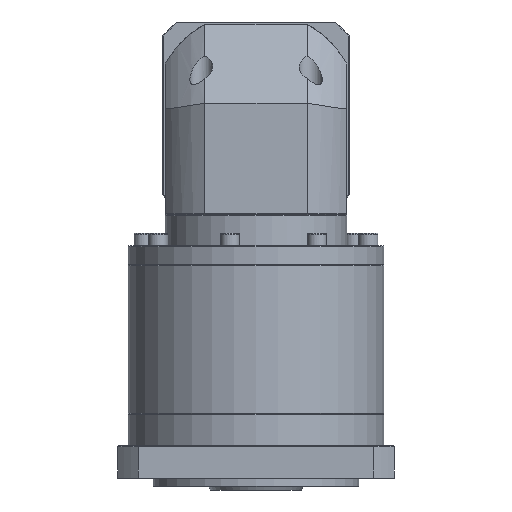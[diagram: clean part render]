
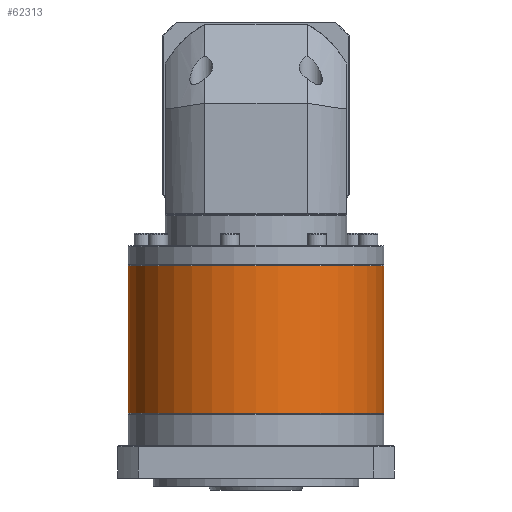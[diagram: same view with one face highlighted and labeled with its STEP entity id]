
A CAD part, front view. The second image highlights one B-rep face of the part: STEP entity #62313.
In plain terms, the highlighted cylindrical face has radius 81 mm (diameter 162 mm), a partial arc.
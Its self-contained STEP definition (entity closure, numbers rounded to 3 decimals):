
#3990 = DIRECTION ( 'NONE',  ( -1., 0., 0. ) ) ;
#4550 = CARTESIAN_POINT ( 'NONE',  ( -106.654, 82.413, -208.774 ) ) ;
#6493 = VECTOR ( 'NONE', #118781, 1000. ) ;
#9586 = EDGE_CURVE ( 'NONE', #83955, #20844, #62640, .T. ) ;
#11360 = EDGE_LOOP ( 'NONE', ( #12470, #99734, #80697, #48573 ) ) ;
#12470 = ORIENTED_EDGE ( 'NONE', *, *, #9586, .F. ) ;
#14887 = VECTOR ( 'NONE', #74532, 1000. ) ;
#15119 = CARTESIAN_POINT ( 'NONE',  ( -106.654, 82.413, -114.774 ) ) ;
#20844 = VERTEX_POINT ( 'NONE', #28615 ) ;
#23113 = CARTESIAN_POINT ( 'NONE',  ( -187.654, 82.413, -115.274 ) ) ;
#24553 = FACE_OUTER_BOUND ( 'NONE', #11360, .T. ) ;
#27878 = EDGE_CURVE ( 'NONE', #94334, #20844, #89614, .T. ) ;
#28615 = CARTESIAN_POINT ( 'NONE',  ( -25.654, 82.413, -208.774 ) ) ;
#37691 = CARTESIAN_POINT ( 'NONE',  ( -25.654, 82.413, -115.274 ) ) ;
#46957 = DIRECTION ( 'NONE',  ( 0., 0., -1. ) ) ;
#48573 = ORIENTED_EDGE ( 'NONE', *, *, #27878, .T. ) ;
#54378 = AXIS2_PLACEMENT_3D ( 'NONE', #84631, #73597, #116847 ) ;
#56139 = CYLINDRICAL_SURFACE ( 'NONE', #111845, 81. ) ;
#62313 = ADVANCED_FACE ( 'NONE', ( #24553 ), #56139, .T. ) ;
#62640 = LINE ( 'NONE', #128030, #6493 ) ;
#73597 = DIRECTION ( 'NONE',  ( 0., 0., -1. ) ) ;
#74532 = DIRECTION ( 'NONE',  ( 0., 0., -1. ) ) ;
#80040 = VERTEX_POINT ( 'NONE', #23113 ) ;
#80697 = ORIENTED_EDGE ( 'NONE', *, *, #87186, .T. ) ;
#83955 = VERTEX_POINT ( 'NONE', #37691 ) ;
#84631 = CARTESIAN_POINT ( 'NONE',  ( -106.654, 82.413, -115.274 ) ) ;
#87186 = EDGE_CURVE ( 'NONE', #80040, #94334, #107258, .T. ) ;
#89054 = DIRECTION ( 'NONE',  ( -1., 0., 0. ) ) ;
#89614 = CIRCLE ( 'NONE', #131030, 81. ) ;
#94334 = VERTEX_POINT ( 'NONE', #112046 ) ;
#99734 = ORIENTED_EDGE ( 'NONE', *, *, #126375, .T. ) ;
#107258 = LINE ( 'NONE', #127930, #14887 ) ;
#107409 = CIRCLE ( 'NONE', #54378, 81. ) ;
#111845 = AXIS2_PLACEMENT_3D ( 'NONE', #15119, #46957, #3990 ) ;
#112046 = CARTESIAN_POINT ( 'NONE',  ( -187.654, 82.413, -208.774 ) ) ;
#116847 = DIRECTION ( 'NONE',  ( -1., 0., 0. ) ) ;
#118781 = DIRECTION ( 'NONE',  ( 0., 0., -1. ) ) ;
#126375 = EDGE_CURVE ( 'NONE', #83955, #80040, #107409, .T. ) ;
#127930 = CARTESIAN_POINT ( 'NONE',  ( -187.654, 82.413, -114.774 ) ) ;
#128030 = CARTESIAN_POINT ( 'NONE',  ( -25.654, 82.413, -114.774 ) ) ;
#131030 = AXIS2_PLACEMENT_3D ( 'NONE', #4550, #131492, #89054 ) ;
#131492 = DIRECTION ( 'NONE',  ( 0., 0., 1. ) ) ;
